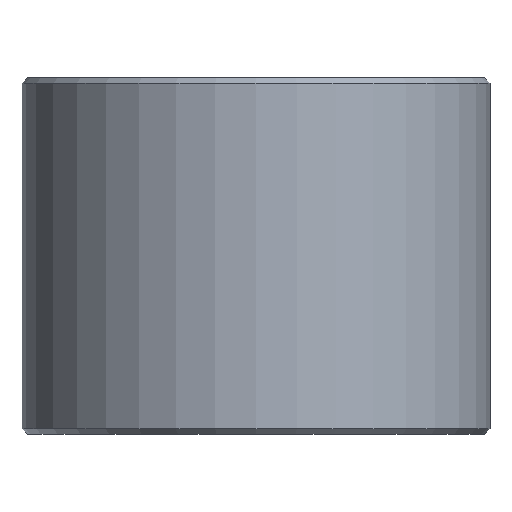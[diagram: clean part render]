
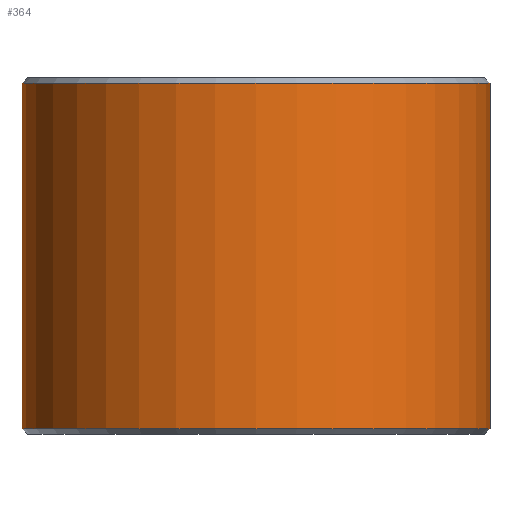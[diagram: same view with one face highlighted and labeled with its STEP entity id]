
A CAD part, front view. The second image highlights one B-rep face of the part: STEP entity #364.
In plain terms, the highlighted cylindrical face has radius 23 mm (diameter 46 mm), a partial arc.
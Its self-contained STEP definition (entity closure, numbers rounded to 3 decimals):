
#7 = ORIENTED_EDGE ( 'NONE', *, *, #442, .T. ) ;
#14 = FACE_OUTER_BOUND ( 'NONE', #554, .T. ) ;
#40 = DIRECTION ( 'NONE',  ( 1., 0., 0. ) ) ;
#52 = VECTOR ( 'NONE', #506, 1000. ) ;
#70 = EDGE_CURVE ( 'NONE', #752, #751, #532, .T. ) ;
#92 = DIRECTION ( 'NONE',  ( 0., 0., 1. ) ) ;
#97 = CARTESIAN_POINT ( 'NONE',  ( 0., 0., 0.5 ) ) ;
#100 = ORIENTED_EDGE ( 'NONE', *, *, #70, .T. ) ;
#118 = DIRECTION ( 'NONE',  ( 0., 0., -1. ) ) ;
#139 = CYLINDRICAL_SURFACE ( 'NONE', #406, 23. ) ;
#184 = VERTEX_POINT ( 'NONE', #531 ) ;
#189 = EDGE_CURVE ( 'NONE', #751, #184, #409, .T. ) ;
#233 = CARTESIAN_POINT ( 'NONE',  ( 23., 0., 34.5 ) ) ;
#253 = DIRECTION ( 'NONE',  ( 0., 0., -1. ) ) ;
#344 = CIRCLE ( 'NONE', #579, 23. ) ;
#354 = LINE ( 'NONE', #634, #52 ) ;
#364 = ADVANCED_FACE ( 'NONE', ( #14 ), #139, .T. ) ;
#384 = DIRECTION ( 'NONE',  ( 1., 0., 0. ) ) ;
#406 = AXIS2_PLACEMENT_3D ( 'NONE', #502, #253, #632 ) ;
#409 = LINE ( 'NONE', #756, #608 ) ;
#426 = EDGE_CURVE ( 'NONE', #752, #505, #354, .T. ) ;
#442 = EDGE_CURVE ( 'NONE', #184, #505, #344, .T. ) ;
#500 = AXIS2_PLACEMENT_3D ( 'NONE', #745, #512, #40 ) ;
#502 = CARTESIAN_POINT ( 'NONE',  ( 0., 0., 35. ) ) ;
#505 = VERTEX_POINT ( 'NONE', #585 ) ;
#506 = DIRECTION ( 'NONE',  ( 0., 0., -1. ) ) ;
#512 = DIRECTION ( 'NONE',  ( 0., 0., -1. ) ) ;
#516 = ORIENTED_EDGE ( 'NONE', *, *, #426, .F. ) ;
#531 = CARTESIAN_POINT ( 'NONE',  ( -23., 0., 0.5 ) ) ;
#532 = CIRCLE ( 'NONE', #500, 23. ) ;
#547 = CARTESIAN_POINT ( 'NONE',  ( -23., 0., 34.5 ) ) ;
#554 = EDGE_LOOP ( 'NONE', ( #516, #100, #617, #7 ) ) ;
#579 = AXIS2_PLACEMENT_3D ( 'NONE', #97, #92, #384 ) ;
#585 = CARTESIAN_POINT ( 'NONE',  ( 23., 0., 0.5 ) ) ;
#608 = VECTOR ( 'NONE', #118, 1000. ) ;
#617 = ORIENTED_EDGE ( 'NONE', *, *, #189, .T. ) ;
#632 = DIRECTION ( 'NONE',  ( -1., 0., 0. ) ) ;
#634 = CARTESIAN_POINT ( 'NONE',  ( 23., 0., 35. ) ) ;
#745 = CARTESIAN_POINT ( 'NONE',  ( 0., 0., 34.5 ) ) ;
#751 = VERTEX_POINT ( 'NONE', #547 ) ;
#752 = VERTEX_POINT ( 'NONE', #233 ) ;
#756 = CARTESIAN_POINT ( 'NONE',  ( -23., 0., 35. ) ) ;
